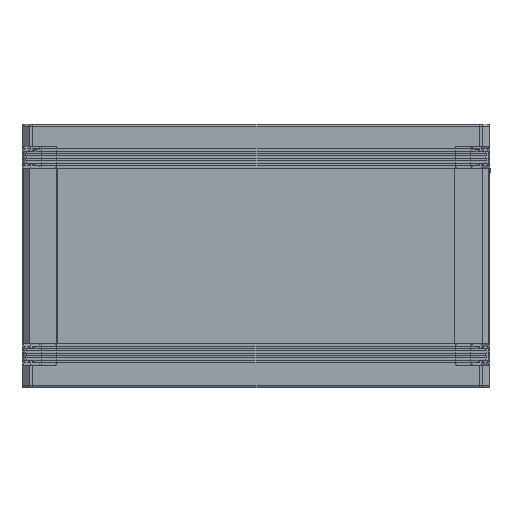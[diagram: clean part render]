
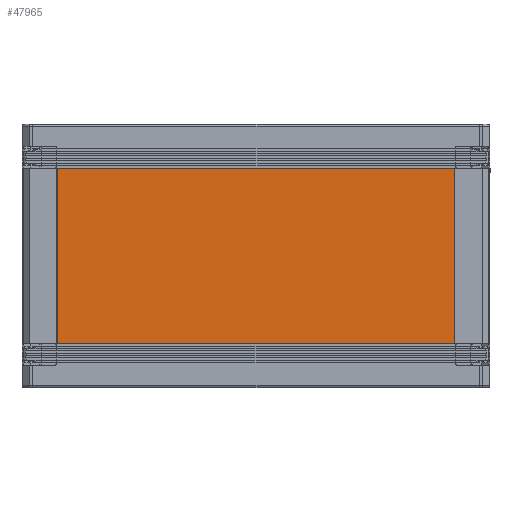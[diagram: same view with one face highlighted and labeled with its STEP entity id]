
A CAD part, top view. The second image highlights one B-rep face of the part: STEP entity #47965.
In plain terms, the highlighted planar face has unit normal (0, 0, 1).
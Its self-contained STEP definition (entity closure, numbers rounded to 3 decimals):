
#2471 = LINE ( 'NONE', #36333, #31222 ) ;
#3338 = PLANE ( 'NONE',  #4797 ) ;
#3637 = CARTESIAN_POINT ( 'NONE',  ( 426.646, 24.176, 3. ) ) ;
#4387 = EDGE_CURVE ( 'NONE', #5360, #12612, #37983, .T. ) ;
#4797 = AXIS2_PLACEMENT_3D ( 'NONE', #44353, #34549, #7662 ) ;
#5360 = VERTEX_POINT ( 'NONE', #50281 ) ;
#7235 = CARTESIAN_POINT ( 'NONE',  ( -27.354, 24.176, 3. ) ) ;
#7514 = DIRECTION ( 'NONE',  ( -1., 0., 0. ) ) ;
#7662 = DIRECTION ( 'NONE',  ( 1., 0., 0. ) ) ;
#8384 = EDGE_CURVE ( 'NONE', #31363, #5360, #16420, .T. ) ;
#9918 = EDGE_CURVE ( 'NONE', #24170, #31363, #12956, .T. ) ;
#12612 = VERTEX_POINT ( 'NONE', #54881 ) ;
#12845 = DIRECTION ( 'NONE',  ( 0., 1., 0. ) ) ;
#12956 = LINE ( 'NONE', #26193, #38265 ) ;
#16015 = ORIENTED_EDGE ( 'NONE', *, *, #4387, .T. ) ;
#16420 = LINE ( 'NONE', #43846, #32608 ) ;
#22047 = DIRECTION ( 'NONE',  ( 1., 0., 0. ) ) ;
#24170 = VERTEX_POINT ( 'NONE', #42380 ) ;
#26193 = CARTESIAN_POINT ( 'NONE',  ( 426.646, 24.176, 3. ) ) ;
#28576 = ORIENTED_EDGE ( 'NONE', *, *, #34821, .T. ) ;
#29414 = DIRECTION ( 'NONE',  ( 0., -1., 0. ) ) ;
#31222 = VECTOR ( 'NONE', #22047, 1000. ) ;
#31363 = VERTEX_POINT ( 'NONE', #3637 ) ;
#32608 = VECTOR ( 'NONE', #7514, 1000. ) ;
#32649 = EDGE_LOOP ( 'NONE', ( #16015, #28576, #51315, #49637 ) ) ;
#34549 = DIRECTION ( 'NONE',  ( 0., 0., 1. ) ) ;
#34821 = EDGE_CURVE ( 'NONE', #12612, #24170, #2471, .T. ) ;
#36333 = CARTESIAN_POINT ( 'NONE',  ( -27.354, -175.824, 3. ) ) ;
#37983 = LINE ( 'NONE', #7235, #42902 ) ;
#38265 = VECTOR ( 'NONE', #12845, 1000. ) ;
#42380 = CARTESIAN_POINT ( 'NONE',  ( 426.646, -175.824, 3. ) ) ;
#42902 = VECTOR ( 'NONE', #29414, 1000. ) ;
#43846 = CARTESIAN_POINT ( 'NONE',  ( -27.354, 24.176, 3. ) ) ;
#44353 = CARTESIAN_POINT ( 'NONE',  ( -27.354, -175.824, 3. ) ) ;
#47965 = ADVANCED_FACE ( 'NONE', ( #56411 ), #3338, .T. ) ;
#49637 = ORIENTED_EDGE ( 'NONE', *, *, #8384, .T. ) ;
#50281 = CARTESIAN_POINT ( 'NONE',  ( -27.354, 24.176, 3. ) ) ;
#51315 = ORIENTED_EDGE ( 'NONE', *, *, #9918, .T. ) ;
#54881 = CARTESIAN_POINT ( 'NONE',  ( -27.354, -175.824, 3. ) ) ;
#56411 = FACE_OUTER_BOUND ( 'NONE', #32649, .T. ) ;
